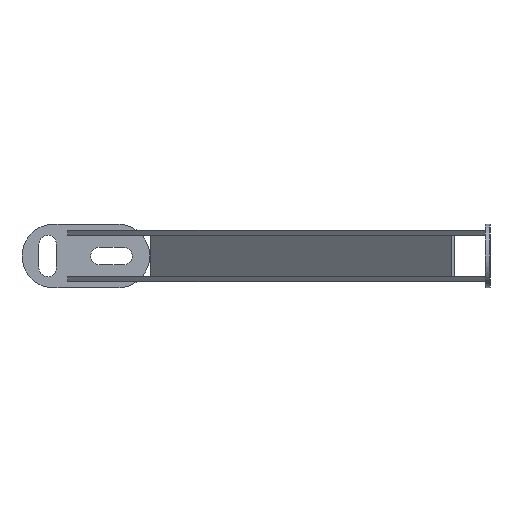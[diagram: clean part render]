
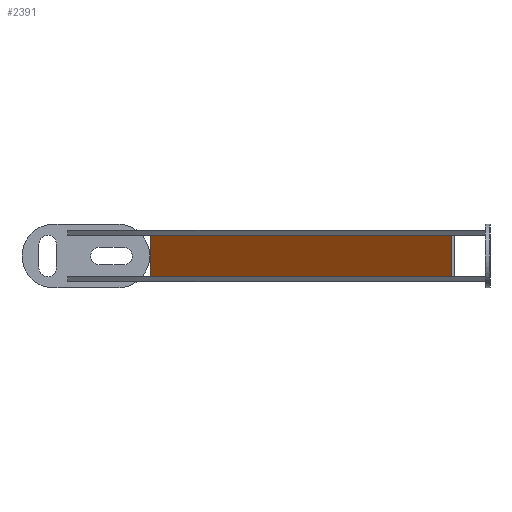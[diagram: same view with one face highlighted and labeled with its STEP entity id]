
A CAD part, left-side view. The second image highlights one B-rep face of the part: STEP entity #2391.
In plain terms, the highlighted planar face has unit normal (-0.707, 0.707, 0).
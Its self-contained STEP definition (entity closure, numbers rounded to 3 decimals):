
#209 = DIRECTION ( 'NONE',  ( 0.707, 0.707, 0. ) ) ;
#502 = DIRECTION ( 'NONE',  ( 0., 0., 1. ) ) ;
#575 = LINE ( 'NONE', #5631, #5143 ) ;
#651 = DIRECTION ( 'NONE',  ( 0., 0., 1. ) ) ;
#756 = LINE ( 'NONE', #1338, #5757 ) ;
#771 = VERTEX_POINT ( 'NONE', #5657 ) ;
#1240 = CARTESIAN_POINT ( 'NONE',  ( -23.469, 209.718, -13. ) ) ;
#1313 = DIRECTION ( 'NONE',  ( 0.707, 0.707, 0. ) ) ;
#1314 = LINE ( 'NONE', #6385, #5788 ) ;
#1338 = CARTESIAN_POINT ( 'NONE',  ( -23.469, 209.718, 13. ) ) ;
#1421 = DIRECTION ( 'NONE',  ( 0.707, -0.707, 0. ) ) ;
#1471 = EDGE_CURVE ( 'NONE', #6442, #4252, #575, .T. ) ;
#1934 = FACE_OUTER_BOUND ( 'NONE', #3525, .T. ) ;
#2391 = ADVANCED_FACE ( 'NONE', ( #1934 ), #2961, .F. ) ;
#2723 = ORIENTED_EDGE ( 'NONE', *, *, #6846, .F. ) ;
#2961 = PLANE ( 'NONE',  #6461 ) ;
#3408 = EDGE_CURVE ( 'NONE', #6144, #771, #3786, .T. ) ;
#3525 = EDGE_LOOP ( 'NONE', ( #2723, #4623, #6519, #4749 ) ) ;
#3786 = LINE ( 'NONE', #5482, #5000 ) ;
#3800 = CARTESIAN_POINT ( 'NONE',  ( -23.469, 209.718, 13. ) ) ;
#4252 = VERTEX_POINT ( 'NONE', #3800 ) ;
#4623 = ORIENTED_EDGE ( 'NONE', *, *, #3408, .T. ) ;
#4749 = ORIENTED_EDGE ( 'NONE', *, *, #1471, .F. ) ;
#4985 = EDGE_CURVE ( 'NONE', #771, #4252, #756, .T. ) ;
#5000 = VECTOR ( 'NONE', #502, 1000. ) ;
#5143 = VECTOR ( 'NONE', #651, 1000. ) ;
#5170 = CARTESIAN_POINT ( 'NONE',  ( -23.469, 209.718, -285.8 ) ) ;
#5171 = DIRECTION ( 'NONE',  ( 0.707, 0.707, 0. ) ) ;
#5254 = CARTESIAN_POINT ( 'NONE',  ( -212.125, 21.061, -13. ) ) ;
#5482 = CARTESIAN_POINT ( 'NONE',  ( -212.125, 21.061, -285.8 ) ) ;
#5631 = CARTESIAN_POINT ( 'NONE',  ( -23.469, 209.718, -285.8 ) ) ;
#5657 = CARTESIAN_POINT ( 'NONE',  ( -212.125, 21.061, 13. ) ) ;
#5757 = VECTOR ( 'NONE', #209, 1000. ) ;
#5788 = VECTOR ( 'NONE', #5171, 1000. ) ;
#6144 = VERTEX_POINT ( 'NONE', #5254 ) ;
#6385 = CARTESIAN_POINT ( 'NONE',  ( -116.593, 116.593, -13. ) ) ;
#6442 = VERTEX_POINT ( 'NONE', #1240 ) ;
#6461 = AXIS2_PLACEMENT_3D ( 'NONE', #5170, #1421, #1313 ) ;
#6519 = ORIENTED_EDGE ( 'NONE', *, *, #4985, .T. ) ;
#6846 = EDGE_CURVE ( 'NONE', #6144, #6442, #1314, .T. ) ;
